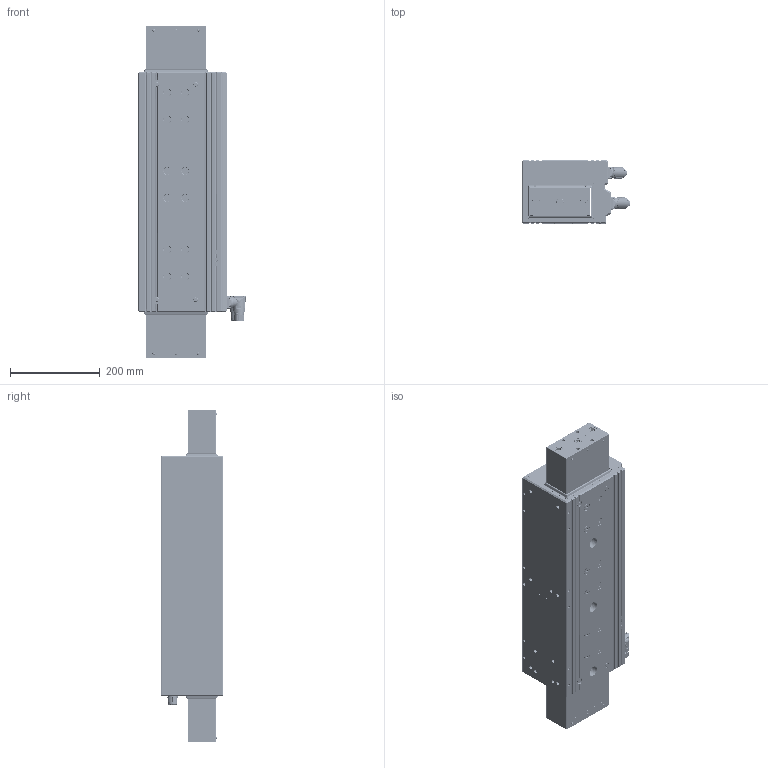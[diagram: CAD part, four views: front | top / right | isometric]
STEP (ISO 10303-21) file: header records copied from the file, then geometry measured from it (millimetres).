
FILE_DESCRIPTION((''),'2;1');
FILE_NAME('LDAT-100-DUMMY_ASM','2012-05-17T',('als'),('Rockwell Automation'),'PRO/ENGINEER BY PARAMETRIC TECHNOLOGY CORPORATION, 2007390','PRO/ENGINEER BY PARAMETRIC TECHNOLOGY CORPORATION, 2007390','');
FILE_SCHEMA(('CONFIG_CONTROL_DESIGN'));
Length unit declared in the file: millimetre
Products named in the file (34): B627631-100-A_AF3; D627756-100-400_ASM; D627768-100; D627769-100; B627834; D627739-100; LDAT-100-SLIDER-DUMMY-700; B627686-100; A805843-1; A805843-2; A805843-4; A805843-3_ASM; A805843-5; A805843-6; A805843_ASM; A805844-1; A805844-2; A805844-3; A805844_ASM; B805901-E1-NT_ASM; DIN7991-12_9-8X22-ZP; 627795; 627815; DIN912-3X8; DIN912-2_5X12; 627849; DIN7991-12_9-5X30-ZP; DIN912-12X50; DIN912-10X16; B627690-100; ISO7380-3X6; DIN7991-10_9-5X30-ZP; DIN7991-10_9-8X22-ZP; LDAT-100-DUMMY_ASM
Assembly tree (99 placements, depth 4):
  LDAT-100-DUMMY_ASM
    D627756-100-400_ASM
      B627631-100-A_AF3
    D627768-100
    D627769-100
    B627834
    D627739-100  x2
    LDAT-100-SLIDER-DUMMY-700
    B627686-100  x2
    A805843_ASM
      A805843-1
      A805843-2
      A805843-3_ASM
        A805843-4
      A805843-5  x4
      A805843-6  x2
    B805901-E1-NT_ASM
      A805844_ASM
        A805844-1
        A805844-2
        A805844-3
    DIN7991-12_9-8X22-ZP  x8
    627795  x4
    627815  x3
    DIN912-3X8  x14
    DIN912-2_5X12  x8
    627849  x6
    DIN7991-12_9-5X30-ZP  x6
    DIN912-12X50  x4
    DIN912-10X16  x2
    B627690-100  x2
    ISO7380-3X6  x6
    DIN7991-10_9-5X30-ZP  x6
    DIN7991-10_9-8X22-ZP  x4
Bounding box: 239.05 x 140 x 738.1 mm (x, y, z)
Volume: 11773113.8 mm3; surface area: 1409454.3 mm2
Topology: 94 solids, 109 shells, 6553 faces, 17927 edges, 11695 vertices
Faces by surface type: cylinder 2620, plane 1812, bspline 834, cone 623, torus 542, sphere 117, extrusion 3, revolution 2
Entity records: 240950 total; most frequent: CARTESIAN_POINT 120485, ORIENTED_EDGE 27294, DIRECTION 22517, EDGE_CURVE 13672, AXIS2_PLACEMENT_3D 9177, VERTEX_POINT 9075, EDGE_LOOP 5223, CIRCLE 5027
